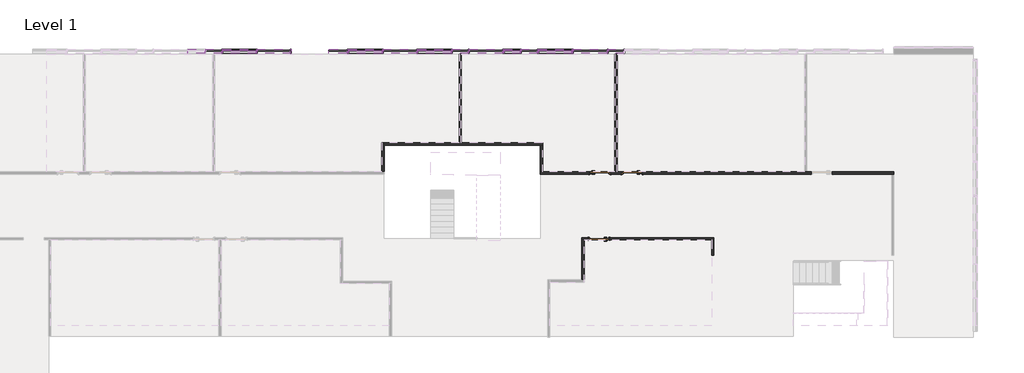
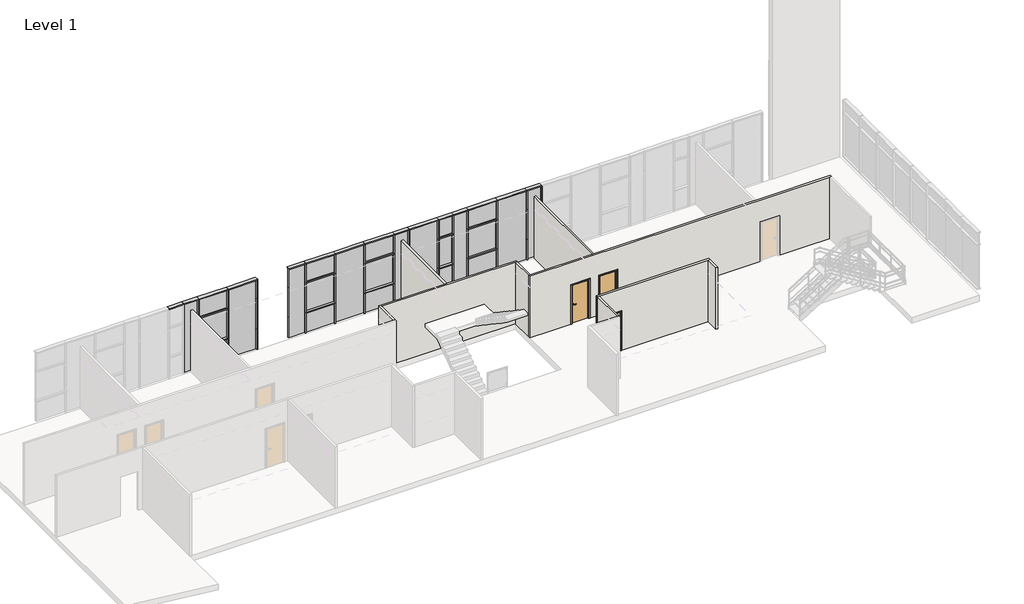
# One storey, part 5 of 10: 67 members, 24 plates, 9 walls, 3 doors.
"""IFC4 building model written with IfcOpenShell, lengths in millimetres."""

from ifc_helpers import new_model, si_unit, frame, origin, place, context, project, spatial, polyline, outline, extrude, faceted_brep, transform, mapped, element, save
from components import doors_intsgl_1_910x2110mm_004a08d5, doors_intsgl_1_910x2110mm_ba118736, rectangular_mullion_50x180mm_27940352, rectangular_mullion_50x180mm_f781141c, rectangular_mullion_50x180mm_fd91253e, rectangular_mullion_50x180mm_cfc9efda, rectangular_mullion_50x180mm_c30fec06, rectangular_mullion_50x180mm_55b63a96, rectangular_mullion_50x180mm_95299f7d, rectangular_mullion_50x180mm_7153291d, rectangular_mullion_50x180mm_44ee472d, rectangular_mullion_50x180mm_f19e9633, rectangular_mullion_50x180mm_b6846536, system_panel_black_panel_9c91f909, system_panel_black_panel_9e4711d2, system_panel_black_panel_f1dc39a6, system_panel_dark_grey_panel_d75652f0, system_panel_dark_grey_panel_1d6e0621, system_panel_dark_grey_panel_c47644bc, system_panel_glazed_dd63f223, system_panel_glazed_4915e1a0, system_panel_white_panel_6a64f577, system_panel_white_panel_a9ca731a, system_panel_white_panel_6c6c8c82, system_panel_white_panel_ff540c20

model = new_model("IFC4")

# Units and contexts
model_context = context("Model", 3, world=origin())
ifc_project = project(units=[si_unit("LENGTHUNIT", "METRE", prefix="MILLI")], contexts=[model_context])

# Site, building, storey
site = spatial("IfcSite", under=ifc_project)
building = spatial("IfcBuilding", under=site)
storey = spatial("IfcBuildingStorey", under=building, Name="Level 1", Elevation=3750.0)

# Doors
placement = place(None, origin())
doors_intsgl_1_910x2110mm_shape = doors_intsgl_1_910x2110mm_004a08d5(model_context)
element("IfcDoor", 1, ObjectType="Doors_IntSgl_1 : 910x2110mm", at=placement, inside=storey, context=model_context, shape_type="MappedRepresentation", body=[
    mapped(doors_intsgl_1_910x2110mm_shape, transform((26878.2942367, 3837.3025486, 3750.0), x_axis=(1.0, 0.0, 0.0), y_axis=(0.0, 1.0, 0.0), z_axis=(0.0, 0.0, 1.0))),
])
element("IfcDoor", 2, ObjectType="Doors_IntSgl_1 : 910x2110mm", at=placement, inside=storey, context=model_context, shape_type="MappedRepresentation", body=[
    mapped(doors_intsgl_1_910x2110mm_shape, transform((26848.2942367, 987.4946591, 3750.0), x_axis=(-1.0, 0.0, 0.0), y_axis=(0.0, -1.0, 0.0), z_axis=(0.0, 0.0, 1.0))),
])
doors_intsgl_1_910x2110mm_2_shape = doors_intsgl_1_910x2110mm_ba118736(model_context)
element("IfcDoor", 3, ObjectType="Doors_IntSgl_1 : 910x2110mm", at=placement, inside=storey, context=model_context, shape_type="MappedRepresentation", body=[
    mapped(doors_intsgl_1_910x2110mm_2_shape, transform((28283.2942367, 3837.3025486, 3750.0), x_axis=(-1.0, 0.0, 0.0), y_axis=(0.0, -1.0, 0.0), z_axis=(0.0, 0.0, 1.0))),
])

# Members
rectangular_mullion_50x180mm_shape = rectangular_mullion_50x180mm_27940352(model_context)
element("IfcMember", 4, ObjectType="Rectangular Mullion : 50x180mm", at=placement, inside=storey, context=model_context, shape_type="MappedRepresentation", body=[
    mapped(rectangular_mullion_50x180mm_shape, transform((27943.2942367, 9132.4946591, 3750.0), x_axis=(1.0, 0.0, 0.0), y_axis=(0.0, -1.0, 0.0), z_axis=(0.0, 0.0, -1.0))),
])
element("IfcMember", 5, ObjectType="Rectangular Mullion : 50x180mm", at=placement, inside=storey, context=model_context, shape_type="MappedRepresentation", body=[
    mapped(rectangular_mullion_50x180mm_shape, transform((25693.2942367, 9132.4946591, 3750.0), x_axis=(1.0, 0.0, 0.0), y_axis=(0.0, -1.0, 0.0), z_axis=(0.0, 0.0, -1.0))),
])
element("IfcMember", 6, ObjectType="Rectangular Mullion : 50x180mm", at=placement, inside=storey, context=model_context, shape_type="MappedRepresentation", body=[
    mapped(rectangular_mullion_50x180mm_shape, transform((24193.2942367, 9132.4946591, 3750.0), x_axis=(1.0, 0.0, 0.0), y_axis=(0.0, -1.0, 0.0), z_axis=(0.0, 0.0, -1.0))),
])
element("IfcMember", 7, ObjectType="Rectangular Mullion : 50x180mm", at=placement, inside=storey, context=model_context, shape_type="MappedRepresentation", body=[
    mapped(rectangular_mullion_50x180mm_shape, transform((23443.2942367, 9132.4946591, 3750.0), x_axis=(1.0, 0.0, 0.0), y_axis=(0.0, -1.0, 0.0), z_axis=(0.0, 0.0, -1.0))),
])
element("IfcMember", 8, ObjectType="Rectangular Mullion : 50x180mm", at=placement, inside=storey, context=model_context, shape_type="MappedRepresentation", body=[
    mapped(rectangular_mullion_50x180mm_shape, transform((22693.2942367, 9132.4946591, 3750.0), x_axis=(1.0, 0.0, 0.0), y_axis=(0.0, -1.0, 0.0), z_axis=(0.0, 0.0, -1.0))),
])
element("IfcMember", 9, ObjectType="Rectangular Mullion : 50x180mm", at=placement, inside=storey, context=model_context, shape_type="MappedRepresentation", body=[
    mapped(rectangular_mullion_50x180mm_shape, transform((20443.2942367, 9132.4946591, 3750.0), x_axis=(1.0, 0.0, 0.0), y_axis=(0.0, -1.0, 0.0), z_axis=(0.0, 0.0, -1.0))),
])
element("IfcMember", 10, ObjectType="Rectangular Mullion : 50x180mm", at=placement, inside=storey, context=model_context, shape_type="MappedRepresentation", body=[
    mapped(rectangular_mullion_50x180mm_shape, transform((18943.2942367, 9132.4946591, 3750.0), x_axis=(1.0, 0.0, 0.0), y_axis=(0.0, -1.0, 0.0), z_axis=(0.0, 0.0, -1.0))),
])
element("IfcMember", 11, ObjectType="Rectangular Mullion : 50x180mm", at=placement, inside=storey, context=model_context, shape_type="MappedRepresentation", body=[
    mapped(rectangular_mullion_50x180mm_shape, transform((15943.2942367, 9132.4946591, 3750.0), x_axis=(1.0, 0.0, 0.0), y_axis=(0.0, -1.0, 0.0), z_axis=(0.0, 0.0, -1.0))),
])
element("IfcMember", 12, ObjectType="Rectangular Mullion : 50x180mm", at=placement, inside=storey, context=model_context, shape_type="MappedRepresentation", body=[
    mapped(rectangular_mullion_50x180mm_shape, transform((17443.2942367, 9132.4946591, 3750.0), x_axis=(1.0, 0.0, 0.0), y_axis=(0.0, -1.0, 0.0), z_axis=(0.0, 0.0, -1.0))),
])
element("IfcMember", 13, ObjectType="Rectangular Mullion : 50x180mm", at=placement, inside=storey, context=model_context, shape_type="MappedRepresentation", body=[
    mapped(rectangular_mullion_50x180mm_shape, transform((11980.7942367, 9132.4946591, 3750.0), x_axis=(1.0, 0.0, 0.0), y_axis=(0.0, -1.0, 0.0), z_axis=(0.0, 0.0, -1.0))),
])
element("IfcMember", 14, ObjectType="Rectangular Mullion : 50x180mm", at=placement, inside=storey, context=model_context, shape_type="MappedRepresentation", body=[
    mapped(rectangular_mullion_50x180mm_shape, transform((10480.7942367, 9132.4946591, 3750.0), x_axis=(1.0, 0.0, 0.0), y_axis=(0.0, -1.0, 0.0), z_axis=(0.0, 0.0, -1.0))),
])
element("IfcMember", 15, ObjectType="Rectangular Mullion : 50x180mm", at=placement, inside=storey, context=model_context, shape_type="MappedRepresentation", body=[
    mapped(rectangular_mullion_50x180mm_shape, transform((21193.2942367, 9132.4946591, 3750.0), x_axis=(1.0, 0.0, 0.0), y_axis=(0.0, -1.0, 0.0), z_axis=(0.0, 0.0, -1.0))),
])
rectangular_mullion_50x180mm_2_shape = rectangular_mullion_50x180mm_f781141c(model_context)
element("IfcMember", 16, ObjectType="Rectangular Mullion : 50x180mm", at=placement, inside=storey, context=model_context, shape_type="MappedRepresentation", body=[
    mapped(rectangular_mullion_50x180mm_2_shape, transform((27943.2942367, 9132.4946591, 4850.0), x_axis=(1.0, 0.0, 0.0), y_axis=(0.0, -1.0, 0.0), z_axis=(0.0, 0.0, -1.0))),
])
element("IfcMember", 17, ObjectType="Rectangular Mullion : 50x180mm", at=placement, inside=storey, context=model_context, shape_type="MappedRepresentation", body=[
    mapped(rectangular_mullion_50x180mm_2_shape, transform((15943.2942367, 9132.4946591, 4850.0), x_axis=(1.0, 0.0, 0.0), y_axis=(0.0, -1.0, 0.0), z_axis=(0.0, 0.0, -1.0))),
])
element("IfcMember", 18, ObjectType="Rectangular Mullion : 50x180mm", at=placement, inside=storey, context=model_context, shape_type="MappedRepresentation", body=[
    mapped(rectangular_mullion_50x180mm_2_shape, transform((17443.2942367, 9132.4946591, 4850.0), x_axis=(1.0, 0.0, 0.0), y_axis=(0.0, -1.0, 0.0), z_axis=(0.0, 0.0, -1.0))),
])
element("IfcMember", 19, ObjectType="Rectangular Mullion : 50x180mm", at=placement, inside=storey, context=model_context, shape_type="MappedRepresentation", body=[
    mapped(rectangular_mullion_50x180mm_2_shape, transform((18943.2942367, 9132.4946591, 4850.0), x_axis=(1.0, 0.0, 0.0), y_axis=(0.0, -1.0, 0.0), z_axis=(0.0, 0.0, -1.0))),
])
element("IfcMember", 20, ObjectType="Rectangular Mullion : 50x180mm", at=placement, inside=storey, context=model_context, shape_type="MappedRepresentation", body=[
    mapped(rectangular_mullion_50x180mm_2_shape, transform((20443.2942367, 9132.4946591, 4850.0), x_axis=(1.0, 0.0, 0.0), y_axis=(0.0, -1.0, 0.0), z_axis=(0.0, 0.0, -1.0))),
])
element("IfcMember", 21, ObjectType="Rectangular Mullion : 50x180mm", at=placement, inside=storey, context=model_context, shape_type="MappedRepresentation", body=[
    mapped(rectangular_mullion_50x180mm_2_shape, transform((22693.2942367, 9132.4946591, 4850.0), x_axis=(1.0, 0.0, 0.0), y_axis=(0.0, -1.0, 0.0), z_axis=(0.0, 0.0, -1.0))),
])
element("IfcMember", 22, ObjectType="Rectangular Mullion : 50x180mm", at=placement, inside=storey, context=model_context, shape_type="MappedRepresentation", body=[
    mapped(rectangular_mullion_50x180mm_2_shape, transform((23443.2942367, 9132.4946591, 4850.0), x_axis=(1.0, 0.0, 0.0), y_axis=(0.0, -1.0, 0.0), z_axis=(0.0, 0.0, -1.0))),
])
element("IfcMember", 23, ObjectType="Rectangular Mullion : 50x180mm", at=placement, inside=storey, context=model_context, shape_type="MappedRepresentation", body=[
    mapped(rectangular_mullion_50x180mm_2_shape, transform((24193.2942367, 9132.4946591, 4850.0), x_axis=(1.0, 0.0, 0.0), y_axis=(0.0, -1.0, 0.0), z_axis=(0.0, 0.0, -1.0))),
])
element("IfcMember", 24, ObjectType="Rectangular Mullion : 50x180mm", at=placement, inside=storey, context=model_context, shape_type="MappedRepresentation", body=[
    mapped(rectangular_mullion_50x180mm_2_shape, transform((25693.2942367, 9132.4946591, 4850.0), x_axis=(1.0, 0.0, 0.0), y_axis=(0.0, -1.0, 0.0), z_axis=(0.0, 0.0, -1.0))),
])
element("IfcMember", 25, ObjectType="Rectangular Mullion : 50x180mm", at=placement, inside=storey, context=model_context, shape_type="MappedRepresentation", body=[
    mapped(rectangular_mullion_50x180mm_2_shape, transform((10480.7942367, 9132.4946591, 4850.0), x_axis=(1.0, 0.0, 0.0), y_axis=(0.0, -1.0, 0.0), z_axis=(0.0, 0.0, -1.0))),
])
element("IfcMember", 26, ObjectType="Rectangular Mullion : 50x180mm", at=placement, inside=storey, context=model_context, shape_type="MappedRepresentation", body=[
    mapped(rectangular_mullion_50x180mm_2_shape, transform((11980.7942367, 9132.4946591, 4850.0), x_axis=(1.0, 0.0, 0.0), y_axis=(0.0, -1.0, 0.0), z_axis=(0.0, 0.0, -1.0))),
])
element("IfcMember", 27, ObjectType="Rectangular Mullion : 50x180mm", at=placement, inside=storey, context=model_context, shape_type="MappedRepresentation", body=[
    mapped(rectangular_mullion_50x180mm_2_shape, transform((21193.2942367, 9132.4946591, 4850.0), x_axis=(1.0, 0.0, 0.0), y_axis=(0.0, -1.0, 0.0), z_axis=(0.0, 0.0, -1.0))),
])
rectangular_mullion_50x180mm_3_shape = rectangular_mullion_50x180mm_fd91253e(model_context)
element("IfcMember", 28, ObjectType="Rectangular Mullion : 50x180mm", at=placement, inside=storey, context=model_context, shape_type="MappedRepresentation", body=[
    mapped(rectangular_mullion_50x180mm_3_shape, transform((25668.2942367, 9132.4946591, 4850.0), x_axis=(0.0, 0.0, 1.0), y_axis=(0.0, -1.0, 0.0), z_axis=(1.0, 0.0, 0.0))),
])
element("IfcMember", 29, ObjectType="Rectangular Mullion : 50x180mm", at=placement, inside=storey, context=model_context, shape_type="MappedRepresentation", body=[
    mapped(rectangular_mullion_50x180mm_3_shape, transform((25668.2942367, 9132.4946591, 6450.0), x_axis=(0.0, 0.0, 1.0), y_axis=(0.0, -1.0, 0.0), z_axis=(1.0, 0.0, 0.0))),
])
element("IfcMember", 30, ObjectType="Rectangular Mullion : 50x180mm", at=placement, inside=storey, context=model_context, shape_type="MappedRepresentation", body=[
    mapped(rectangular_mullion_50x180mm_3_shape, transform((17418.2942367, 9132.4946591, 4850.0), x_axis=(0.0, 0.0, 1.0), y_axis=(0.0, -1.0, 0.0), z_axis=(1.0, 0.0, 0.0))),
])
element("IfcMember", 31, ObjectType="Rectangular Mullion : 50x180mm", at=placement, inside=storey, context=model_context, shape_type="MappedRepresentation", body=[
    mapped(rectangular_mullion_50x180mm_3_shape, transform((20418.2942367, 9132.4946591, 4850.0), x_axis=(0.0, 0.0, 1.0), y_axis=(0.0, -1.0, 0.0), z_axis=(1.0, 0.0, 0.0))),
])
element("IfcMember", 32, ObjectType="Rectangular Mullion : 50x180mm", at=placement, inside=storey, context=model_context, shape_type="MappedRepresentation", body=[
    mapped(rectangular_mullion_50x180mm_3_shape, transform((17418.2942367, 9132.4946591, 6450.0), x_axis=(0.0, 0.0, 1.0), y_axis=(0.0, -1.0, 0.0), z_axis=(1.0, 0.0, 0.0))),
])
element("IfcMember", 33, ObjectType="Rectangular Mullion : 50x180mm", at=placement, inside=storey, context=model_context, shape_type="MappedRepresentation", body=[
    mapped(rectangular_mullion_50x180mm_3_shape, transform((20418.2942367, 9132.4946591, 6450.0), x_axis=(0.0, 0.0, 1.0), y_axis=(0.0, -1.0, 0.0), z_axis=(1.0, 0.0, 0.0))),
])
element("IfcMember", 34, ObjectType="Rectangular Mullion : 50x180mm", at=placement, inside=storey, context=model_context, shape_type="MappedRepresentation", body=[
    mapped(rectangular_mullion_50x180mm_3_shape, transform((11955.7942367, 9132.4946591, 4850.0), x_axis=(0.0, 0.0, 1.0), y_axis=(0.0, -1.0, 0.0), z_axis=(1.0, 0.0, 0.0))),
])
element("IfcMember", 35, ObjectType="Rectangular Mullion : 50x180mm", at=placement, inside=storey, context=model_context, shape_type="MappedRepresentation", body=[
    mapped(rectangular_mullion_50x180mm_3_shape, transform((11955.7942367, 9132.4946591, 6450.0), x_axis=(0.0, 0.0, 1.0), y_axis=(0.0, -1.0, 0.0), z_axis=(1.0, 0.0, 0.0))),
])
rectangular_mullion_50x180mm_4_shape = rectangular_mullion_50x180mm_cfc9efda(model_context)
element("IfcMember", 36, ObjectType="Rectangular Mullion : 50x180mm", at=placement, inside=storey, context=model_context, shape_type="MappedRepresentation", body=[
    mapped(rectangular_mullion_50x180mm_4_shape, transform((23418.2942367, 9132.4946591, 6450.0), x_axis=(0.0, 0.0, 1.0), y_axis=(0.0, -1.0, 0.0), z_axis=(1.0, 0.0, 0.0))),
])
element("IfcMember", 37, ObjectType="Rectangular Mullion : 50x180mm", at=placement, inside=storey, context=model_context, shape_type="MappedRepresentation", body=[
    mapped(rectangular_mullion_50x180mm_4_shape, transform((23418.2942367, 9132.4946591, 4850.0), x_axis=(0.0, 0.0, 1.0), y_axis=(0.0, -1.0, 0.0), z_axis=(1.0, 0.0, 0.0))),
])
rectangular_mullion_50x180mm_5_shape = rectangular_mullion_50x180mm_c30fec06(model_context)
element("IfcMember", 38, ObjectType="Rectangular Mullion : 50x180mm", at=placement, inside=storey, context=model_context, shape_type="MappedRepresentation", body=[
    mapped(rectangular_mullion_50x180mm_5_shape, transform((17443.2942367, 9132.4946591, 7500.0), x_axis=(0.0, 0.0, 1.0), y_axis=(0.0, -1.0, 0.0), z_axis=(1.0, 0.0, 0.0))),
])
element("IfcMember", 39, ObjectType="Rectangular Mullion : 50x180mm", at=placement, inside=storey, context=model_context, shape_type="MappedRepresentation", body=[
    mapped(rectangular_mullion_50x180mm_5_shape, transform((18943.2942367, 9132.4946591, 7500.0), x_axis=(0.0, 0.0, 1.0), y_axis=(0.0, -1.0, 0.0), z_axis=(1.0, 0.0, 0.0))),
])
element("IfcMember", 40, ObjectType="Rectangular Mullion : 50x180mm", at=placement, inside=storey, context=model_context, shape_type="MappedRepresentation", body=[
    mapped(rectangular_mullion_50x180mm_5_shape, transform((20443.2942367, 9132.4946591, 7500.0), x_axis=(0.0, 0.0, 1.0), y_axis=(0.0, -1.0, 0.0), z_axis=(1.0, 0.0, 0.0))),
])
element("IfcMember", 41, ObjectType="Rectangular Mullion : 50x180mm", at=placement, inside=storey, context=model_context, shape_type="MappedRepresentation", body=[
    mapped(rectangular_mullion_50x180mm_5_shape, transform((22693.2942367, 9132.4946591, 7500.0), x_axis=(0.0, 0.0, 1.0), y_axis=(0.0, -1.0, 0.0), z_axis=(1.0, 0.0, 0.0))),
])
element("IfcMember", 42, ObjectType="Rectangular Mullion : 50x180mm", at=placement, inside=storey, context=model_context, shape_type="MappedRepresentation", body=[
    mapped(rectangular_mullion_50x180mm_5_shape, transform((25693.2942367, 9132.4946591, 7500.0), x_axis=(0.0, 0.0, 1.0), y_axis=(0.0, -1.0, 0.0), z_axis=(1.0, 0.0, 0.0))),
])
element("IfcMember", 43, ObjectType="Rectangular Mullion : 50x180mm", at=placement, inside=storey, context=model_context, shape_type="MappedRepresentation", body=[
    mapped(rectangular_mullion_50x180mm_5_shape, transform((11980.7942367, 9132.4946591, 7500.0), x_axis=(0.0, 0.0, 1.0), y_axis=(0.0, -1.0, 0.0), z_axis=(1.0, 0.0, 0.0))),
])
rectangular_mullion_50x180mm_6_shape = rectangular_mullion_50x180mm_55b63a96(model_context)
element("IfcMember", 44, ObjectType="Rectangular Mullion : 50x180mm", at=placement, inside=storey, context=model_context, shape_type="MappedRepresentation", body=[
    mapped(rectangular_mullion_50x180mm_6_shape, transform((27943.2942367, 9132.4946591, 7500.0), x_axis=(0.0, 0.0, 1.0), y_axis=(0.0, -1.0, 0.0), z_axis=(1.0, 0.0, 0.0))),
])
element("IfcMember", 45, ObjectType="Rectangular Mullion : 50x180mm", at=placement, inside=storey, context=model_context, shape_type="MappedRepresentation", body=[
    mapped(rectangular_mullion_50x180mm_5_shape, transform((27193.2942367, 9132.4946591, 7500.0), x_axis=(0.0, 0.0, 1.0), y_axis=(0.0, -1.0, 0.0), z_axis=(1.0, 0.0, 0.0))),
])
element("IfcMember", 46, ObjectType="Rectangular Mullion : 50x180mm", at=placement, inside=storey, context=model_context, shape_type="MappedRepresentation", body=[
    mapped(rectangular_mullion_50x180mm_6_shape, transform((21193.2942367, 9132.4946591, 7500.0), x_axis=(0.0, 0.0, 1.0), y_axis=(0.0, -1.0, 0.0), z_axis=(1.0, 0.0, 0.0))),
])
element("IfcMember", 47, ObjectType="Rectangular Mullion : 50x180mm", at=placement, inside=storey, context=model_context, shape_type="MappedRepresentation", body=[
    mapped(rectangular_mullion_50x180mm_6_shape, transform((23443.2942367, 9132.4946591, 7500.0), x_axis=(0.0, 0.0, 1.0), y_axis=(0.0, -1.0, 0.0), z_axis=(1.0, 0.0, 0.0))),
])
element("IfcMember", 48, ObjectType="Rectangular Mullion : 50x180mm", at=placement, inside=storey, context=model_context, shape_type="MappedRepresentation", body=[
    mapped(rectangular_mullion_50x180mm_6_shape, transform((24193.2942367, 9132.4946591, 7500.0), x_axis=(0.0, 0.0, 1.0), y_axis=(0.0, -1.0, 0.0), z_axis=(1.0, 0.0, 0.0))),
])
element("IfcMember", 49, ObjectType="Rectangular Mullion : 50x180mm", at=placement, inside=storey, context=model_context, shape_type="MappedRepresentation", body=[
    mapped(rectangular_mullion_50x180mm_6_shape, transform((9730.7942367, 9132.4946591, 7500.0), x_axis=(0.0, 0.0, 1.0), y_axis=(0.0, -1.0, 0.0), z_axis=(1.0, 0.0, 0.0))),
])
element("IfcMember", 50, ObjectType="Rectangular Mullion : 50x180mm", at=placement, inside=storey, context=model_context, shape_type="MappedRepresentation", body=[
    mapped(rectangular_mullion_50x180mm_6_shape, transform((10480.7942367, 9132.4946591, 7500.0), x_axis=(0.0, 0.0, 1.0), y_axis=(0.0, -1.0, 0.0), z_axis=(1.0, 0.0, 0.0))),
])
element("IfcMember", 51, ObjectType="Rectangular Mullion : 50x180mm", at=placement, inside=storey, context=model_context, shape_type="MappedRepresentation", body=[
    mapped(rectangular_mullion_50x180mm_5_shape, transform((13480.7942367, 9132.4946591, 7500.0), x_axis=(0.0, 0.0, 1.0), y_axis=(0.0, -1.0, 0.0), z_axis=(1.0, 0.0, 0.0))),
])
rectangular_mullion_50x180mm_7_shape = rectangular_mullion_50x180mm_95299f7d(model_context)
element("IfcMember", 52, ObjectType="Rectangular Mullion : 50x180mm", at=placement, inside=storey, context=model_context, shape_type="MappedRepresentation", body=[
    mapped(rectangular_mullion_50x180mm_7_shape, transform((13480.7942367, 9132.4946591, 4850.0), x_axis=(1.0, 0.0, 0.0), y_axis=(0.0, -1.0, 0.0), z_axis=(0.0, 0.0, -1.0))),
])
rectangular_mullion_50x180mm_8_shape = rectangular_mullion_50x180mm_7153291d(model_context)
element("IfcMember", 53, ObjectType="Rectangular Mullion : 50x180mm", at=placement, inside=storey, context=model_context, shape_type="MappedRepresentation", body=[
    mapped(rectangular_mullion_50x180mm_8_shape, transform((13480.7942367, 9132.4946591, 3750.0), x_axis=(1.0, 0.0, 0.0), y_axis=(0.0, -1.0, 0.0), z_axis=(0.0, 0.0, -1.0))),
])
element("IfcMember", 54, ObjectType="Rectangular Mullion : 50x180mm", at=placement, inside=storey, context=model_context, shape_type="MappedRepresentation", body=[
    mapped(rectangular_mullion_50x180mm_8_shape, transform((27193.2942367, 9132.4946591, 4850.0), x_axis=(-1.0, 0.0, 0.0), y_axis=(0.0, -1.0, 0.0), z_axis=(0.0, 0.0, 1.0))),
])
element("IfcMember", 55, ObjectType="Rectangular Mullion : 50x180mm", at=placement, inside=storey, context=model_context, shape_type="MappedRepresentation", body=[
    mapped(rectangular_mullion_50x180mm_7_shape, transform((27193.2942367, 9132.4946591, 6450.0), x_axis=(-1.0, 0.0, 0.0), y_axis=(0.0, -1.0, 0.0), z_axis=(0.0, 0.0, 1.0))),
])
rectangular_mullion_50x180mm_9_shape = rectangular_mullion_50x180mm_44ee472d(model_context)
element("IfcMember", 56, ObjectType="Rectangular Mullion : 50x180mm", at=placement, inside=storey, context=model_context, shape_type="MappedRepresentation", body=[
    mapped(rectangular_mullion_50x180mm_9_shape, transform((15943.2942367, 9132.4946591, 7500.0), x_axis=(0.0, 0.0, 1.0), y_axis=(0.0, -1.0, 0.0), z_axis=(1.0, 0.0, 0.0))),
])
rectangular_mullion_50x180mm_10_shape = rectangular_mullion_50x180mm_f19e9633(model_context)
element("IfcMember", 57, ObjectType="Rectangular Mullion : 50x180mm", at=placement, inside=storey, context=model_context, shape_type="MappedRepresentation", body=[
    mapped(rectangular_mullion_50x180mm_10_shape, transform((27943.2942367, 9132.4946591, 6450.0), x_axis=(1.0, 0.0, 0.0), y_axis=(0.0, -1.0, 0.0), z_axis=(0.0, 0.0, -1.0))),
])
element("IfcMember", 58, ObjectType="Rectangular Mullion : 50x180mm", at=placement, inside=storey, context=model_context, shape_type="MappedRepresentation", body=[
    mapped(rectangular_mullion_50x180mm_10_shape, transform((22693.2942367, 9132.4946591, 6450.0), x_axis=(1.0, 0.0, 0.0), y_axis=(0.0, -1.0, 0.0), z_axis=(0.0, 0.0, -1.0))),
])
element("IfcMember", 59, ObjectType="Rectangular Mullion : 50x180mm", at=placement, inside=storey, context=model_context, shape_type="MappedRepresentation", body=[
    mapped(rectangular_mullion_50x180mm_10_shape, transform((23443.2942367, 9132.4946591, 6450.0), x_axis=(1.0, 0.0, 0.0), y_axis=(0.0, -1.0, 0.0), z_axis=(0.0, 0.0, -1.0))),
])
element("IfcMember", 60, ObjectType="Rectangular Mullion : 50x180mm", at=placement, inside=storey, context=model_context, shape_type="MappedRepresentation", body=[
    mapped(rectangular_mullion_50x180mm_10_shape, transform((24193.2942367, 9132.4946591, 6450.0), x_axis=(1.0, 0.0, 0.0), y_axis=(0.0, -1.0, 0.0), z_axis=(0.0, 0.0, -1.0))),
])
element("IfcMember", 61, ObjectType="Rectangular Mullion : 50x180mm", at=placement, inside=storey, context=model_context, shape_type="MappedRepresentation", body=[
    mapped(rectangular_mullion_50x180mm_10_shape, transform((25693.2942367, 9132.4946591, 6450.0), x_axis=(1.0, 0.0, 0.0), y_axis=(0.0, -1.0, 0.0), z_axis=(0.0, 0.0, -1.0))),
])
element("IfcMember", 62, ObjectType="Rectangular Mullion : 50x180mm", at=placement, inside=storey, context=model_context, shape_type="MappedRepresentation", body=[
    mapped(rectangular_mullion_50x180mm_10_shape, transform((20443.2942367, 9132.4946591, 6450.0), x_axis=(1.0, 0.0, 0.0), y_axis=(0.0, -1.0, 0.0), z_axis=(0.0, 0.0, -1.0))),
])
element("IfcMember", 63, ObjectType="Rectangular Mullion : 50x180mm", at=placement, inside=storey, context=model_context, shape_type="MappedRepresentation", body=[
    mapped(rectangular_mullion_50x180mm_10_shape, transform((18943.2942367, 9132.4946591, 6450.0), x_axis=(1.0, 0.0, 0.0), y_axis=(0.0, -1.0, 0.0), z_axis=(0.0, 0.0, -1.0))),
])
element("IfcMember", 64, ObjectType="Rectangular Mullion : 50x180mm", at=placement, inside=storey, context=model_context, shape_type="MappedRepresentation", body=[
    mapped(rectangular_mullion_50x180mm_10_shape, transform((15943.2942367, 9132.4946591, 6450.0), x_axis=(1.0, 0.0, 0.0), y_axis=(0.0, -1.0, 0.0), z_axis=(0.0, 0.0, -1.0))),
])
element("IfcMember", 65, ObjectType="Rectangular Mullion : 50x180mm", at=placement, inside=storey, context=model_context, shape_type="MappedRepresentation", body=[
    mapped(rectangular_mullion_50x180mm_10_shape, transform((17443.2942367, 9132.4946591, 6450.0), x_axis=(1.0, 0.0, 0.0), y_axis=(0.0, -1.0, 0.0), z_axis=(0.0, 0.0, -1.0))),
])
element("IfcMember", 66, ObjectType="Rectangular Mullion : 50x180mm", at=placement, inside=storey, context=model_context, shape_type="MappedRepresentation", body=[
    mapped(rectangular_mullion_50x180mm_10_shape, transform((10480.7942367, 9132.4946591, 6450.0), x_axis=(1.0, 0.0, 0.0), y_axis=(0.0, -1.0, 0.0), z_axis=(0.0, 0.0, -1.0))),
])
element("IfcMember", 67, ObjectType="Rectangular Mullion : 50x180mm", at=placement, inside=storey, context=model_context, shape_type="MappedRepresentation", body=[
    mapped(rectangular_mullion_50x180mm_10_shape, transform((11980.7942367, 9132.4946591, 6450.0), x_axis=(1.0, 0.0, 0.0), y_axis=(0.0, -1.0, 0.0), z_axis=(0.0, 0.0, -1.0))),
])
element("IfcMember", 68, ObjectType="Rectangular Mullion : 50x180mm", at=placement, inside=storey, context=model_context, shape_type="MappedRepresentation", body=[
    mapped(rectangular_mullion_50x180mm_10_shape, transform((21193.2942367, 9132.4946591, 6450.0), x_axis=(1.0, 0.0, 0.0), y_axis=(0.0, -1.0, 0.0), z_axis=(0.0, 0.0, -1.0))),
])
rectangular_mullion_50x180mm_11_shape = rectangular_mullion_50x180mm_b6846536(model_context)
element("IfcMember", 69, ObjectType="Rectangular Mullion : 50x180mm", at=placement, inside=storey, context=model_context, shape_type="MappedRepresentation", body=[
    mapped(rectangular_mullion_50x180mm_11_shape, transform((13480.7942367, 9132.4946591, 6450.0), x_axis=(1.0, 0.0, 0.0), y_axis=(0.0, -1.0, 0.0), z_axis=(0.0, 0.0, -1.0))),
])
element("IfcMember", 70, ObjectType="Rectangular Mullion : 50x180mm", at=placement, inside=storey, context=model_context, shape_type="MappedRepresentation", body=[
    mapped(rectangular_mullion_50x180mm_11_shape, transform((27193.2942367, 9132.4946591, 7450.0), x_axis=(-1.0, 0.0, 0.0), y_axis=(0.0, -1.0, 0.0), z_axis=(0.0, 0.0, 1.0))),
])

# Plates
system_panel_black_panel_shape = system_panel_black_panel_9c91f909(model_context)
element("IfcPlate", 71, ObjectType="System Panel : Black-Panel", at=placement, inside=storey, context=model_context, shape_type="MappedRepresentation", body=[
    mapped(system_panel_black_panel_shape, transform((27580.7942367, 9132.4946591, 3750.0), x_axis=(1.0, 0.0, 0.0), y_axis=(0.0, 1.0, 0.0), z_axis=(0.0, 0.0, 1.0))),
])
system_panel_black_panel_2_shape = system_panel_black_panel_9e4711d2(model_context)
element("IfcPlate", 72, ObjectType="System Panel : Black-Panel", at=placement, inside=storey, context=model_context, shape_type="MappedRepresentation", body=[
    mapped(system_panel_black_panel_2_shape, transform((23818.2942367, 9132.4946591, 3750.0), x_axis=(1.0, 0.0, 0.0), y_axis=(0.0, 1.0, 0.0), z_axis=(0.0, 0.0, 1.0))),
])
element("IfcPlate", 73, ObjectType="System Panel : Black-Panel", at=placement, inside=storey, context=model_context, shape_type="MappedRepresentation", body=[
    mapped(system_panel_black_panel_2_shape, transform((20818.2942367, 9132.4946591, 3750.0), x_axis=(1.0, 0.0, 0.0), y_axis=(0.0, 1.0, 0.0), z_axis=(0.0, 0.0, 1.0))),
])
element("IfcPlate", 74, ObjectType="System Panel : Black-Panel", at=placement, inside=storey, context=model_context, shape_type="MappedRepresentation", body=[
    mapped(system_panel_black_panel_2_shape, transform((10105.7942367, 9132.4946591, 3750.0), x_axis=(1.0, 0.0, 0.0), y_axis=(0.0, 1.0, 0.0), z_axis=(0.0, 0.0, 1.0))),
])
system_panel_black_panel_3_shape = system_panel_black_panel_f1dc39a6(model_context)
element("IfcPlate", 75, ObjectType="System Panel : Black-Panel", at=placement, inside=storey, context=model_context, shape_type="MappedRepresentation", body=[
    mapped(system_panel_black_panel_3_shape, transform((15512.0442367, 9132.4946591, 3750.0), x_axis=(1.0, 0.0, 0.0), y_axis=(0.0, 1.0, 0.0), z_axis=(0.0, 0.0, 1.0))),
])
system_panel_dark_grey_panel_shape = system_panel_dark_grey_panel_d75652f0(model_context)
element("IfcPlate", 76, ObjectType="System Panel : Dark Grey-Panel", at=placement, inside=storey, context=model_context, shape_type="MappedRepresentation", body=[
    mapped(system_panel_dark_grey_panel_shape, transform((12718.2942367, 9132.4946591, 3750.0), x_axis=(1.0, 0.0, 0.0), y_axis=(0.0, 1.0, 0.0), z_axis=(0.0, 0.0, 1.0))),
])
system_panel_dark_grey_panel_2_shape = system_panel_dark_grey_panel_1d6e0621(model_context)
element("IfcPlate", 77, ObjectType="System Panel : Dark Grey-Panel", at=placement, inside=storey, context=model_context, shape_type="MappedRepresentation", body=[
    mapped(system_panel_dark_grey_panel_2_shape, transform((21943.2942367, 9132.4946591, 3750.0), x_axis=(1.0, 0.0, 0.0), y_axis=(0.0, 1.0, 0.0), z_axis=(0.0, 0.0, 1.0))),
])
element("IfcPlate", 78, ObjectType="System Panel : Dark Grey-Panel", at=placement, inside=storey, context=model_context, shape_type="MappedRepresentation", body=[
    mapped(system_panel_dark_grey_panel_2_shape, transform((18193.2942367, 9132.4946591, 3750.0), x_axis=(1.0, 0.0, 0.0), y_axis=(0.0, 1.0, 0.0), z_axis=(0.0, 0.0, 1.0))),
])
system_panel_dark_grey_panel_3_shape = system_panel_dark_grey_panel_c47644bc(model_context)
element("IfcPlate", 79, ObjectType="System Panel : Dark Grey-Panel", at=placement, inside=storey, context=model_context, shape_type="MappedRepresentation", body=[
    mapped(system_panel_dark_grey_panel_3_shape, transform((26455.7942367, 9132.4946591, 3750.0), x_axis=(1.0, 0.0, 0.0), y_axis=(0.0, 1.0, 0.0), z_axis=(0.0, 0.0, 1.0))),
])
system_panel_glazed_shape = system_panel_glazed_dd63f223(model_context)
element("IfcPlate", 80, ObjectType="System Panel : Glazed", at=placement, inside=storey, context=model_context, shape_type="MappedRepresentation", body=[
    mapped(system_panel_glazed_shape, transform((23068.2942367, 9132.4946591, 4875.0), x_axis=(1.0, 0.0, 0.0), y_axis=(0.0, 1.0, 0.0), z_axis=(0.0, 0.0, 1.0))),
])
system_panel_glazed_2_shape = system_panel_glazed_4915e1a0(model_context)
element("IfcPlate", 81, ObjectType="System Panel : Glazed", at=placement, inside=storey, context=model_context, shape_type="MappedRepresentation", body=[
    mapped(system_panel_glazed_2_shape, transform((24943.2942367, 9132.4946591, 4875.0), x_axis=(1.0, 0.0, 0.0), y_axis=(0.0, 1.0, 0.0), z_axis=(0.0, 0.0, 1.0))),
])
element("IfcPlate", 82, ObjectType="System Panel : Glazed", at=placement, inside=storey, context=model_context, shape_type="MappedRepresentation", body=[
    mapped(system_panel_glazed_2_shape, transform((19693.2942367, 9132.4946591, 4875.0), x_axis=(1.0, 0.0, 0.0), y_axis=(0.0, 1.0, 0.0), z_axis=(0.0, 0.0, 1.0))),
])
element("IfcPlate", 83, ObjectType="System Panel : Glazed", at=placement, inside=storey, context=model_context, shape_type="MappedRepresentation", body=[
    mapped(system_panel_glazed_2_shape, transform((16693.2942367, 9132.4946591, 4875.0), x_axis=(1.0, 0.0, 0.0), y_axis=(0.0, 1.0, 0.0), z_axis=(0.0, 0.0, 1.0))),
])
element("IfcPlate", 84, ObjectType="System Panel : Glazed", at=placement, inside=storey, context=model_context, shape_type="MappedRepresentation", body=[
    mapped(system_panel_glazed_2_shape, transform((11230.7942367, 9132.4946591, 4875.0), x_axis=(1.0, 0.0, 0.0), y_axis=(0.0, 1.0, 0.0), z_axis=(0.0, 0.0, 1.0))),
])
system_panel_white_panel_shape = system_panel_white_panel_6a64f577(model_context)
element("IfcPlate", 85, ObjectType="System Panel : White-Panel", at=placement, inside=storey, context=model_context, shape_type="MappedRepresentation", body=[
    mapped(system_panel_white_panel_shape, transform((24943.2942367, 9132.4946591, 3750.0), x_axis=(1.0, 0.0, 0.0), y_axis=(0.0, 1.0, 0.0), z_axis=(0.0, 0.0, 1.0))),
])
element("IfcPlate", 86, ObjectType="System Panel : White-Panel", at=placement, inside=storey, context=model_context, shape_type="MappedRepresentation", body=[
    mapped(system_panel_white_panel_shape, transform((19693.2942367, 9132.4946591, 3750.0), x_axis=(1.0, 0.0, 0.0), y_axis=(0.0, 1.0, 0.0), z_axis=(0.0, 0.0, 1.0))),
])
element("IfcPlate", 87, ObjectType="System Panel : White-Panel", at=placement, inside=storey, context=model_context, shape_type="MappedRepresentation", body=[
    mapped(system_panel_white_panel_shape, transform((16693.2942367, 9132.4946591, 3750.0), x_axis=(1.0, 0.0, 0.0), y_axis=(0.0, 1.0, 0.0), z_axis=(0.0, 0.0, 1.0))),
])
element("IfcPlate", 88, ObjectType="System Panel : White-Panel", at=placement, inside=storey, context=model_context, shape_type="MappedRepresentation", body=[
    mapped(system_panel_white_panel_shape, transform((11230.7942367, 9132.4946591, 3750.0), x_axis=(1.0, 0.0, 0.0), y_axis=(0.0, 1.0, 0.0), z_axis=(0.0, 0.0, 1.0))),
])
system_panel_white_panel_2_shape = system_panel_white_panel_a9ca731a(model_context)
element("IfcPlate", 89, ObjectType="System Panel : White-Panel", at=placement, inside=storey, context=model_context, shape_type="MappedRepresentation", body=[
    mapped(system_panel_white_panel_2_shape, transform((23068.2942367, 9132.4946591, 3750.0), x_axis=(1.0, 0.0, 0.0), y_axis=(0.0, 1.0, 0.0), z_axis=(0.0, 0.0, 1.0))),
])
system_panel_white_panel_3_shape = system_panel_white_panel_6c6c8c82(model_context)
element("IfcPlate", 90, ObjectType="System Panel : White-Panel", at=placement, inside=storey, context=model_context, shape_type="MappedRepresentation", body=[
    mapped(system_panel_white_panel_3_shape, transform((23068.2942367, 9132.4946591, 6475.0), x_axis=(1.0, 0.0, 0.0), y_axis=(0.0, 1.0, 0.0), z_axis=(0.0, 0.0, 1.0))),
])
system_panel_white_panel_4_shape = system_panel_white_panel_ff540c20(model_context)
element("IfcPlate", 91, ObjectType="System Panel : White-Panel", at=placement, inside=storey, context=model_context, shape_type="MappedRepresentation", body=[
    mapped(system_panel_white_panel_4_shape, transform((24943.2942367, 9132.4946591, 6475.0), x_axis=(1.0, 0.0, 0.0), y_axis=(0.0, 1.0, 0.0), z_axis=(0.0, 0.0, 1.0))),
])
element("IfcPlate", 92, ObjectType="System Panel : White-Panel", at=placement, inside=storey, context=model_context, shape_type="MappedRepresentation", body=[
    mapped(system_panel_white_panel_4_shape, transform((19693.2942367, 9132.4946591, 6475.0), x_axis=(1.0, 0.0, 0.0), y_axis=(0.0, 1.0, 0.0), z_axis=(0.0, 0.0, 1.0))),
])
element("IfcPlate", 93, ObjectType="System Panel : White-Panel", at=placement, inside=storey, context=model_context, shape_type="MappedRepresentation", body=[
    mapped(system_panel_white_panel_4_shape, transform((16693.2942367, 9132.4946591, 6475.0), x_axis=(1.0, 0.0, 0.0), y_axis=(0.0, 1.0, 0.0), z_axis=(0.0, 0.0, 1.0))),
])
element("IfcPlate", 94, ObjectType="System Panel : White-Panel", at=placement, inside=storey, context=model_context, shape_type="MappedRepresentation", body=[
    mapped(system_panel_white_panel_4_shape, transform((11230.7942367, 9132.4946591, 6475.0), x_axis=(1.0, 0.0, 0.0), y_axis=(0.0, 1.0, 0.0), z_axis=(0.0, 0.0, 1.0))),
])

# Walls
element("IfcWall", 95, ObjectType="Wall-Partn_12P-70MStd-12P", at=placement, inside=storey, context=model_context, shape_type="Brep", body=[
    faceted_brep([(24298.2942367, 3884.8025486, 7065.0), (24393.2942367, 3884.8025486, 7065.0), (27533.2942367, 3884.8025486, 7065.0), (27628.2942367, 3884.8025486, 7065.0), (35770.7942367, 3884.8025486, 7065.0), (35865.7942367, 3884.8025486, 7065.0), (39655.7942367, 3884.8025486, 7065.0), (39655.7942367, 3884.8025486, 3750.0), (36975.7942367, 3884.8025486, 3750.0), (36975.7942367, 3884.8025486, 5860.0), (36065.7942367, 3884.8025486, 5860.0), (36065.7942367, 3884.8025486, 3750.0), (35865.7942367, 3884.8025486, 3750.0), (35770.7942367, 3884.8025486, 3750.0), (28738.2942367, 3884.8025486, 3750.0), (28738.2942367, 3884.8025486, 5860.0), (27828.2942367, 3884.8025486, 5860.0), (27828.2942367, 3884.8025486, 3750.0), (27628.2942367, 3884.8025486, 3750.0), (27533.2942367, 3884.8025486, 3750.0), (27333.2942367, 3884.8025486, 3750.0), (27333.2942367, 3884.8025486, 5860.0), (26423.2942367, 3884.8025486, 5860.0), (26423.2942367, 3884.8025486, 3750.0), (24393.2942367, 3884.8025486, 3750.0), (24298.2942367, 3884.8025486, 3750.0), (39655.7942367, 3789.8025486, 7065.0), (39560.7942367, 3789.8025486, 7065.0), (24298.2942367, 3789.8025486, 7065.0), (24298.2942367, 3789.8025486, 3750.0), (26423.2942367, 3789.8025486, 3750.0), (26423.2942367, 3789.8025486, 5860.0), (27333.2942367, 3789.8025486, 5860.0), (27333.2942367, 3789.8025486, 3750.0), (27828.2942367, 3789.8025486, 3750.0), (27828.2942367, 3789.8025486, 5860.0), (28738.2942367, 3789.8025486, 5860.0), (28738.2942367, 3789.8025486, 3750.0), (36065.7942367, 3789.8025486, 3750.0), (36065.7942367, 3789.8025486, 5860.0), (36975.7942367, 3789.8025486, 5860.0), (36975.7942367, 3789.8025486, 3750.0), (39560.7942367, 3789.8025486, 3750.0), (39655.7942367, 3789.8025486, 3750.0)], [[[0, 1, 2, 3, 4, 5, 6, 7, 8, 9, 10, 11, 12, 13, 14, 15, 16, 17, 18, 19, 20, 21, 22, 23, 24, 25]], [[26, 27, 28, 29, 30, 31, 32, 33, 34, 35, 36, 37, 38, 39, 40, 41, 42, 43]], [[29, 25, 24, 23, 30]], [[33, 20, 19, 18, 17, 34]], [[37, 14, 13, 12, 11, 38]], [[7, 43, 42, 41, 8]], [[6, 5, 4, 3, 2, 1, 0, 28, 27, 26]], [[0, 25, 29, 28]], [[32, 21, 20, 33]], [[21, 32, 31, 22]], [[22, 31, 30, 23]], [[16, 35, 34, 17]], [[35, 16, 15, 36]], [[36, 15, 14, 37]], [[10, 39, 38, 11]], [[39, 10, 9, 40]], [[40, 9, 8, 41]], [[7, 6, 26, 43]]]),
])
element("IfcWall", 96, ObjectType="Wall-Partn_12P-70MStd-12P", at=placement, inside=storey, context=model_context, shape_type="SweptSolid", body=[
    extrude(outline(polyline([(20865.7942367, 9007.4946591), (20865.7942367, 5143.5025486), (20770.7942367, 5143.5025486), (20770.7942367, 9007.4946591), (20865.7942367, 9007.4946591)])), frame((0.0, 0.0, 3750.0), z_axis=(0.0, 0.0, 1.0), x_axis=(1.0, 0.0, 0.0)), (0.0, 0.0, 1.0), 3315.0),
])
element("IfcWall", 97, ObjectType="Wall-Partn_12P-70MStd-12P", at=placement, inside=storey, context=model_context, shape_type="SweptSolid", body=[
    extrude(outline(polyline([(27628.2942367, 9007.4946591), (27628.2942367, 3884.8025486), (27533.2942367, 3884.8025486), (27533.2942367, 9007.4946591), (27628.2942367, 9007.4946591)])), frame((0.0, 0.0, 3750.0), z_axis=(0.0, 0.0, 1.0), x_axis=(1.0, 0.0, 0.0)), (0.0, 0.0, 1.0), 3315.0),
])
element("IfcWall", 98, ObjectType="Wall-Partn_12P-70MStd-12P", at=placement, inside=storey, context=model_context, shape_type="Brep", body=[
    faceted_brep([(17505.7942367, 3884.8025486, 3750.0), (17505.7942367, 5048.5025486, 3750.0), (17505.7942367, 5143.5025486, 3750.0), (17505.7942367, 5143.5025486, 7065.0), (17505.7942367, 5048.5025486, 7065.0), (17505.7942367, 3884.8025486, 7065.0), (17410.7942367, 3884.8025486, 3750.0), (17410.7942367, 3884.8025486, 7065.0), (17410.7942367, 5143.5025486, 7065.0), (17410.7942367, 5143.5025486, 3750.0)], [[[0, 1, 2, 3, 4, 5]], [[6, 7, 8, 9]], [[2, 1, 0, 6, 9]], [[5, 4, 3, 8, 7]], [[0, 5, 7, 6]], [[3, 2, 9, 8]]]),
])
element("IfcWall", 99, ObjectType="Wall-Partn_12P-70MStd-12P", at=placement, inside=storey, context=model_context, shape_type="Brep", body=[
    faceted_brep([(17505.7942367, 5048.5025486, 3750.0), (24298.2942367, 5048.5025486, 3750.0), (24393.2942367, 5048.5025486, 3750.0), (24393.2942367, 5048.5025486, 7065.0), (24298.2942367, 5048.5025486, 7065.0), (17505.7942367, 5048.5025486, 7065.0), (17505.7942367, 5143.5025486, 3750.0), (17505.7942367, 5143.5025486, 7065.0), (20770.7942367, 5143.5025486, 7065.0), (20865.7942367, 5143.5025486, 7065.0), (24393.2942367, 5143.5025486, 7065.0), (24393.2942367, 5143.5025486, 3750.0), (20865.7942367, 5143.5025486, 3750.0), (20770.7942367, 5143.5025486, 3750.0)], [[[0, 1, 2, 3, 4, 5]], [[6, 7, 8, 9, 10, 11, 12, 13]], [[2, 1, 0, 6, 13, 12, 11]], [[5, 4, 3, 10, 9, 8, 7]], [[0, 5, 7, 6]], [[3, 2, 11, 10]]]),
])
element("IfcWall", 100, ObjectType="Wall-Partn_12P-70MStd-12P", at=placement, inside=storey, context=model_context, shape_type="SweptSolid", body=[
    extrude(outline(polyline([(24298.2942367, 3884.8025486), (24298.2942367, 5048.5025486), (24393.2942367, 5048.5025486), (24393.2942367, 3884.8025486), (24298.2942367, 3884.8025486)])), frame((0.0, 0.0, 3750.0), z_axis=(0.0, 0.0, 1.0), x_axis=(1.0, 0.0, 0.0)), (0.0, 0.0, 1.0), 3315.0),
])
element("IfcWall", 101, ObjectType="Wall-Partn_12P-70MStd-12P", at=placement, inside=storey, context=model_context, shape_type="Brep", body=[
    faceted_brep([(31831.4942371, 939.9946591, 7065.0), (31736.4942371, 939.9946591, 7065.0), (26193.2942367, 939.9946591, 7065.0), (26098.2942367, 939.9946591, 7065.0), (26098.2942367, 939.9946591, 3750.0), (26193.2942367, 939.9946591, 3750.0), (26393.2942367, 939.9946591, 3750.0), (26393.2942367, 939.9946591, 5860.0), (27303.2942367, 939.9946591, 5860.0), (27303.2942367, 939.9946591, 3750.0), (31736.4942371, 939.9946591, 3750.0), (31831.4942371, 939.9946591, 3750.0), (26098.2942367, 1034.9946591, 7065.0), (31831.4942371, 1034.9946591, 7065.0), (31831.4942371, 1034.9946591, 3750.0), (27303.2942367, 1034.9946591, 3750.0), (27303.2942367, 1034.9946591, 5860.0), (26393.2942367, 1034.9946591, 5860.0), (26393.2942367, 1034.9946591, 3750.0), (26098.2942367, 1034.9946591, 3750.0)], [[[0, 1, 2, 3, 4, 5, 6, 7, 8, 9, 10, 11]], [[12, 13, 14, 15, 16, 17, 18, 19]], [[14, 11, 10, 9, 15]], [[4, 19, 18, 6, 5]], [[3, 2, 1, 0, 13, 12]], [[0, 11, 14, 13]], [[4, 3, 12, 19]], [[17, 7, 6, 18]], [[7, 17, 16, 8]], [[8, 16, 15, 9]]]),
])
element("IfcWall", 102, ObjectType="Wall-Partn_12P-70MStd-12P", at=placement, inside=storey, context=model_context, shape_type="SweptSolid", body=[
    extrude(outline(polyline([(31736.4942371, 256.8025492), (31736.4942371, 939.9946591), (31831.4942371, 939.9946591), (31831.4942371, 256.8025492), (31736.4942371, 256.8025492)])), frame((0.0, 0.0, 3750.0), z_axis=(0.0, 0.0, 1.0), x_axis=(1.0, 0.0, 0.0)), (0.0, 0.0, 1.0), 3315.0),
])
element("IfcWall", 103, ObjectType="Wall-Partn_12P-70MStd-12P", at=placement, inside=storey, context=model_context, shape_type="SweptSolid", body=[
    extrude(outline(polyline([(26193.2942367, 939.9946591), (26193.2942367, -800.6472731), (26098.2942367, -800.6472731), (26098.2942367, 939.9946591), (26193.2942367, 939.9946591)])), frame((0.0, 0.0, 3750.0), z_axis=(0.0, 0.0, 1.0), x_axis=(1.0, 0.0, 0.0)), (0.0, 0.0, 1.0), 3315.0),
])

save(model, "model.ifc")
